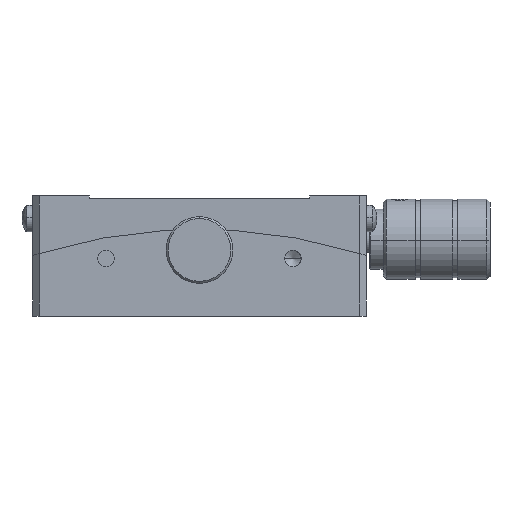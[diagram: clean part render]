
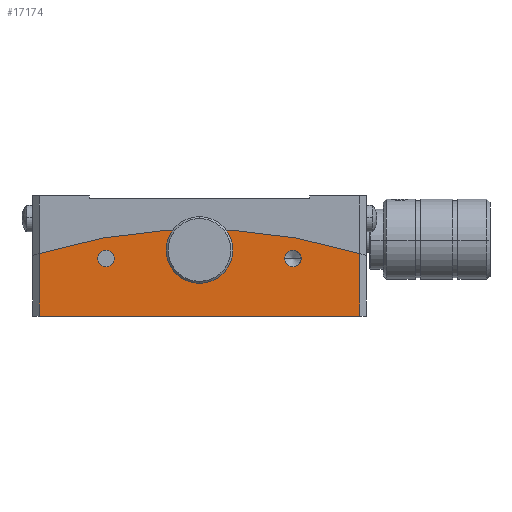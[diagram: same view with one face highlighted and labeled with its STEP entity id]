
A CAD part, front view. The second image highlights one B-rep face of the part: STEP entity #17174.
In plain terms, the highlighted planar face has unit normal (0, -1, 0).
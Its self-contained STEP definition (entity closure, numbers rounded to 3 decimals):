
#339 = ORIENTED_EDGE ( 'NONE', *, *, #12714, .F. ) ;
#564 = CIRCLE ( 'NONE', #26020, 81. ) ;
#989 = EDGE_CURVE ( 'NONE', #1328, #3251, #15471, .T. ) ;
#1328 = VERTEX_POINT ( 'NONE', #30311 ) ;
#1464 = AXIS2_PLACEMENT_3D ( 'NONE', #23090, #18777, #4996 ) ;
#2309 = CARTESIAN_POINT ( 'NONE',  ( -14., -25., 75.382 ) ) ;
#2395 = FACE_OUTER_BOUND ( 'NONE', #6939, .T. ) ;
#3155 = DIRECTION ( 'NONE',  ( 0., 0., -1. ) ) ;
#3251 = VERTEX_POINT ( 'NONE', #5318 ) ;
#4208 = LINE ( 'NONE', #15320, #19429 ) ;
#4357 = VECTOR ( 'NONE', #19940, 1000. ) ;
#4702 = CARTESIAN_POINT ( 'NONE',  ( 0., -25., 77.9 ) ) ;
#4978 = CARTESIAN_POINT ( 'NONE',  ( 0., -25., 76.65 ) ) ;
#4996 = DIRECTION ( 'NONE',  ( 0., 0., 1. ) ) ;
#5318 = CARTESIAN_POINT ( 'NONE',  ( 24., -25., 77.363 ) ) ;
#5792 = VERTEX_POINT ( 'NONE', #10207 ) ;
#6286 = EDGE_CURVE ( 'NONE', #21152, #29937, #7434, .T. ) ;
#6452 = CIRCLE ( 'NONE', #18821, 1.25 ) ;
#6503 = EDGE_CURVE ( 'NONE', #29937, #21152, #6452, .T. ) ;
#6939 = EDGE_LOOP ( 'NONE', ( #339, #7467, #25473, #16068 ) ) ;
#7079 = CARTESIAN_POINT ( 'NONE',  ( 0., -25., 77.9 ) ) ;
#7192 = CARTESIAN_POINT ( 'NONE',  ( 14., -25., 76.632 ) ) ;
#7333 = DIRECTION ( 'NONE',  ( 0., -1., 0. ) ) ;
#7434 = CIRCLE ( 'NONE', #10871, 1.25 ) ;
#7467 = ORIENTED_EDGE ( 'NONE', *, *, #10545, .T. ) ;
#7944 = EDGE_CURVE ( 'NONE', #29298, #11732, #24770, .T. ) ;
#9547 = EDGE_CURVE ( 'NONE', #5792, #1328, #29534, .T. ) ;
#9912 = ORIENTED_EDGE ( 'NONE', *, *, #7944, .F. ) ;
#10207 = CARTESIAN_POINT ( 'NONE',  ( -24., -25., 68. ) ) ;
#10545 = EDGE_CURVE ( 'NONE', #19199, #5792, #4208, .T. ) ;
#10563 = ORIENTED_EDGE ( 'NONE', *, *, #6286, .F. ) ;
#10871 = AXIS2_PLACEMENT_3D ( 'NONE', #15230, #24171, #12469 ) ;
#10967 = ORIENTED_EDGE ( 'NONE', *, *, #6503, .F. ) ;
#11558 = VECTOR ( 'NONE', #24560, 1000. ) ;
#11732 = VERTEX_POINT ( 'NONE', #21838 ) ;
#11981 = DIRECTION ( 'NONE',  ( 0., -1., 0. ) ) ;
#12469 = DIRECTION ( 'NONE',  ( 0., 0., 1. ) ) ;
#12714 = EDGE_CURVE ( 'NONE', #19199, #3251, #564, .T. ) ;
#13026 = DIRECTION ( 'NONE',  ( 0., 0., -1. ) ) ;
#13251 = CARTESIAN_POINT ( 'NONE',  ( -14., -25., 76.632 ) ) ;
#13428 = CIRCLE ( 'NONE', #29201, 1.25 ) ;
#13856 = CIRCLE ( 'NONE', #21712, 1.25 ) ;
#14146 = FACE_BOUND ( 'NONE', #27082, .T. ) ;
#15230 = CARTESIAN_POINT ( 'NONE',  ( 14., -25., 76.632 ) ) ;
#15244 = CARTESIAN_POINT ( 'NONE',  ( -24., -25., 77.363 ) ) ;
#15320 = CARTESIAN_POINT ( 'NONE',  ( -24., -25., -81. ) ) ;
#15471 = LINE ( 'NONE', #26748, #4357 ) ;
#16068 = ORIENTED_EDGE ( 'NONE', *, *, #989, .T. ) ;
#16587 = ORIENTED_EDGE ( 'NONE', *, *, #16728, .F. ) ;
#16608 = FACE_BOUND ( 'NONE', #27027, .T. ) ;
#16728 = EDGE_CURVE ( 'NONE', #19952, #25644, #13856, .T. ) ;
#17174 = ADVANCED_FACE ( 'NONE', ( #14146, #30518, #16608, #2395 ), #18930, .T. ) ;
#17682 = CARTESIAN_POINT ( 'NONE',  ( -14., -25., 76.632 ) ) ;
#18743 = ORIENTED_EDGE ( 'NONE', *, *, #26307, .F. ) ;
#18777 = DIRECTION ( 'NONE',  ( 0., -1., 0. ) ) ;
#18785 = DIRECTION ( 'NONE',  ( 0., 0., 1. ) ) ;
#18821 = AXIS2_PLACEMENT_3D ( 'NONE', #7192, #7333, #18785 ) ;
#18930 = PLANE ( 'NONE',  #1464 ) ;
#19104 = DIRECTION ( 'NONE',  ( 0., 0., 1. ) ) ;
#19199 = VERTEX_POINT ( 'NONE', #15244 ) ;
#19429 = VECTOR ( 'NONE', #13026, 1000. ) ;
#19662 = DIRECTION ( 'NONE',  ( 0., 0., 1. ) ) ;
#19670 = CARTESIAN_POINT ( 'NONE',  ( 0., -25., 0. ) ) ;
#19838 = DIRECTION ( 'NONE',  ( 0., 1., 0. ) ) ;
#19940 = DIRECTION ( 'NONE',  ( 0., 0., 1. ) ) ;
#19952 = VERTEX_POINT ( 'NONE', #4978 ) ;
#21063 = EDGE_LOOP ( 'NONE', ( #24782, #9912 ) ) ;
#21152 = VERTEX_POINT ( 'NONE', #25946 ) ;
#21712 = AXIS2_PLACEMENT_3D ( 'NONE', #7079, #30412, #19104 ) ;
#21761 = CIRCLE ( 'NONE', #29692, 1.25 ) ;
#21836 = DIRECTION ( 'NONE',  ( 0., -1., 0. ) ) ;
#21838 = CARTESIAN_POINT ( 'NONE',  ( -14., -25., 77.882 ) ) ;
#22647 = DIRECTION ( 'NONE',  ( 0., -1., 0. ) ) ;
#23090 = CARTESIAN_POINT ( 'NONE',  ( 0., -25., -81. ) ) ;
#24171 = DIRECTION ( 'NONE',  ( 0., -1., 0. ) ) ;
#24560 = DIRECTION ( 'NONE',  ( 1., 0., 0. ) ) ;
#24770 = CIRCLE ( 'NONE', #29736, 1.25 ) ;
#24782 = ORIENTED_EDGE ( 'NONE', *, *, #25881, .F. ) ;
#25473 = ORIENTED_EDGE ( 'NONE', *, *, #9547, .T. ) ;
#25644 = VERTEX_POINT ( 'NONE', #29476 ) ;
#25881 = EDGE_CURVE ( 'NONE', #11732, #29298, #21761, .T. ) ;
#25946 = CARTESIAN_POINT ( 'NONE',  ( 14., -25., 75.382 ) ) ;
#26020 = AXIS2_PLACEMENT_3D ( 'NONE', #19670, #19838, #3155 ) ;
#26307 = EDGE_CURVE ( 'NONE', #25644, #19952, #13428, .T. ) ;
#26748 = CARTESIAN_POINT ( 'NONE',  ( 24., -25., -81. ) ) ;
#27027 = EDGE_LOOP ( 'NONE', ( #18743, #16587 ) ) ;
#27082 = EDGE_LOOP ( 'NONE', ( #10967, #10563 ) ) ;
#28191 = DIRECTION ( 'NONE',  ( 0., 0., 1. ) ) ;
#28514 = CARTESIAN_POINT ( 'NONE',  ( 14., -25., 77.882 ) ) ;
#29201 = AXIS2_PLACEMENT_3D ( 'NONE', #4702, #11981, #28191 ) ;
#29298 = VERTEX_POINT ( 'NONE', #2309 ) ;
#29476 = CARTESIAN_POINT ( 'NONE',  ( 0., -25., 79.15 ) ) ;
#29534 = LINE ( 'NONE', #29700, #11558 ) ;
#29692 = AXIS2_PLACEMENT_3D ( 'NONE', #13251, #22647, #30097 ) ;
#29700 = CARTESIAN_POINT ( 'NONE',  ( 25., -25., 68. ) ) ;
#29736 = AXIS2_PLACEMENT_3D ( 'NONE', #17682, #21836, #19662 ) ;
#29937 = VERTEX_POINT ( 'NONE', #28514 ) ;
#30097 = DIRECTION ( 'NONE',  ( 0., 0., 1. ) ) ;
#30311 = CARTESIAN_POINT ( 'NONE',  ( 24., -25., 68. ) ) ;
#30412 = DIRECTION ( 'NONE',  ( 0., -1., 0. ) ) ;
#30518 = FACE_BOUND ( 'NONE', #21063, .T. ) ;
